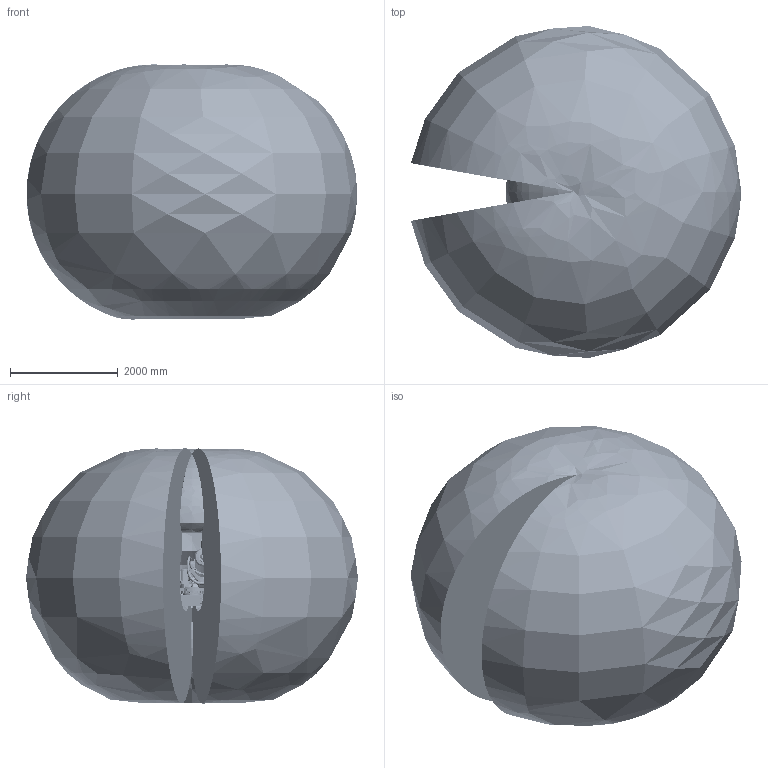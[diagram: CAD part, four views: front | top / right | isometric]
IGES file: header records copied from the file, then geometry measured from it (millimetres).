
Start section: SolidWorks IGES file using analytic representation for surfaces
Global section: file name: C:\DATA\SAP_DOC\LW\IRB 6730S\IRB6730S-MH3_270kg-310_OC_01_SW_J\export\IRB6730S-MH3_270kg-310_OC_01_IGES_J\IRB6730S-MH3_270kg-310_OC_01_ASM_CAD.igs; native system: SolidWorks 2024; preprocessor: SolidWorks 2024; author: SEJOVAS3; date: 260526.131609; units: millimetre
Bounding box: 6151.14 x 6175 x 4745.51 mm (x, y, z)
Surface area: 160409979.4 mm2 (no closed solid volume)
Topology: 0 solids, 0 shells, 9702 faces, 159388 edges, 159129 vertices
Faces by surface type: bspline 5594, revolution 4108
